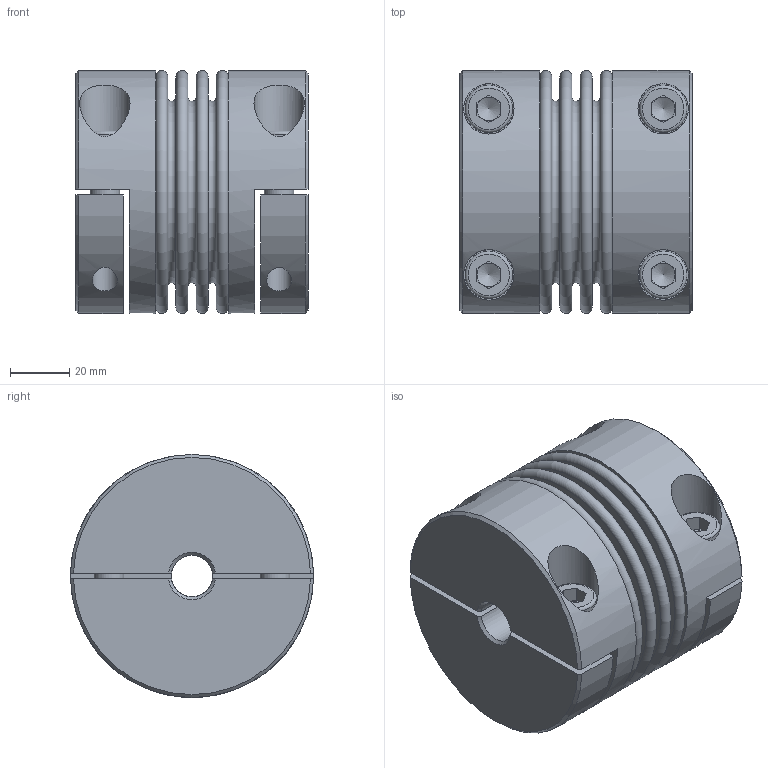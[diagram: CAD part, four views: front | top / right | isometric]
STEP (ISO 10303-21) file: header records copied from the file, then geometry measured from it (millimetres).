
FILE_DESCRIPTION( ( 'Unknown' ), '1' );
FILE_NAME( 'C:/Users/skarpstein/Desktop/KB4HC/KB4HC-80-78.stp', 'Unknown', ( 'Unknown' ), ( 'Unknown' ), 'PSStep 16.0.42', 'Unknown', ' ' );
FILE_SCHEMA( ( 'AUTOMOTIVE_DESIGN { 1 0 10303 214 1 1 1 1 }' ) );
Length unit declared in the file: millimetre
Products named in the file (5): Assem1; KN4HC-80-150; BK80-150_Standard_3; Socket Head Cap Screw_DIN_DIN 912 M10 x 30 --- 30N_9
Assembly tree (9 placements, depth 2):
  Assem1
    KN4HC-80-150  x2
    KN4HC-80-150  x2
    BK80-150_Standard_3
    Socket Head Cap Screw_DIN_DIN 912 M10 x 30 --- 30N_9  x4
Bounding box: 78.4 x 82 x 82 mm (x, y, z)
Volume: 265161.6 mm3; surface area: 111103.9 mm2
Topology: 9 solids, 9 shells, 170 faces, 358 edges, 228 vertices
Faces by surface type: plane 100, cylinder 32, torus 22, cone 16
Full cylindrical faces by diameter (mm): 8.376 x4, 10 x8, 14 x2, 16 x4, 17 x4, 70.7 x2, 71.9 x2, 82 x2
Entity records: 3074 total; most frequent: CARTESIAN_POINT 673, DIRECTION 366, ORIENTED_EDGE 246, AXIS2_PLACEMENT_3D 163, EDGE_LOOP 144, EDGE_CURVE 123, FACE_OUTER_BOUND 112, VERTEX_POINT 108
